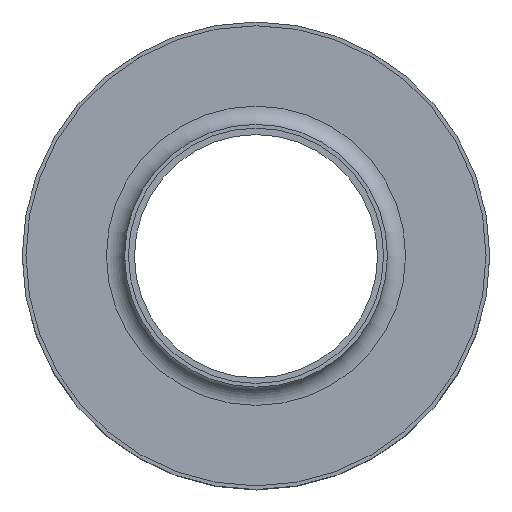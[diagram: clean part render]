
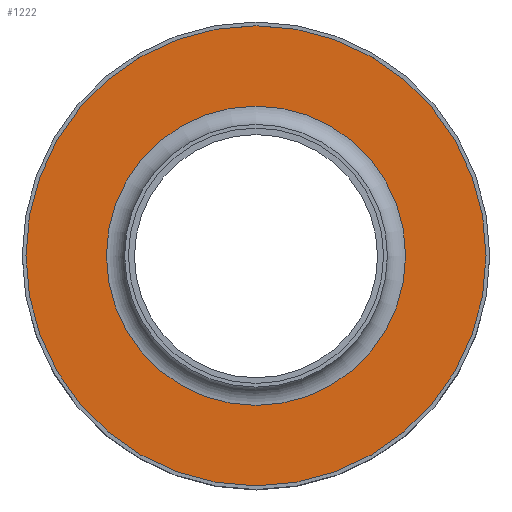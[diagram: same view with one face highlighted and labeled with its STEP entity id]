
A CAD part, top view. The second image highlights one B-rep face of the part: STEP entity #1222.
In plain terms, the highlighted planar face has unit normal (0, 0, 1).
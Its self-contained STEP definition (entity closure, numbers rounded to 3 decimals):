
#19=FACE_BOUND('',#197,.T.);
#74=PLANE('',#1366);
#132=FACE_OUTER_BOUND('',#196,.T.);
#196=EDGE_LOOP('',(#1011));
#197=EDGE_LOOP('',(#1012,#1013));
#484=CIRCLE('',#1348,123.);
#496=CIRCLE('',#1364,80.);
#497=CIRCLE('',#1365,80.);
#603=VERTEX_POINT('',#2043);
#613=VERTEX_POINT('',#2069);
#614=VERTEX_POINT('',#2071);
#768=EDGE_CURVE('',#603,#603,#484,.T.);
#781=EDGE_CURVE('',#614,#613,#496,.T.);
#782=EDGE_CURVE('',#613,#614,#497,.T.);
#1011=ORIENTED_EDGE('',*,*,#768,.T.);
#1012=ORIENTED_EDGE('',*,*,#781,.T.);
#1013=ORIENTED_EDGE('',*,*,#782,.T.);
#1222=ADVANCED_FACE('',(#132,#19),#74,.T.);
#1348=AXIS2_PLACEMENT_3D('',#2044,#1676,#1677);
#1364=AXIS2_PLACEMENT_3D('',#2072,#1709,#1710);
#1365=AXIS2_PLACEMENT_3D('',#2073,#1711,#1712);
#1366=AXIS2_PLACEMENT_3D('',#2074,#1713,#1714);
#1676=DIRECTION('center_axis',(0.,0.,1.));
#1677=DIRECTION('ref_axis',(-1.,0.,0.));
#1709=DIRECTION('center_axis',(0.,0.,-1.));
#1710=DIRECTION('ref_axis',(1.,0.,0.));
#1711=DIRECTION('center_axis',(0.,0.,-1.));
#1712=DIRECTION('ref_axis',(1.,0.,0.));
#1713=DIRECTION('center_axis',(0.,0.,1.));
#1714=DIRECTION('ref_axis',(1.,0.,0.));
#2043=CARTESIAN_POINT('',(123.,0.,124.));
#2044=CARTESIAN_POINT('Origin',(0.,0.,124.));
#2069=CARTESIAN_POINT('',(80.,0.,124.));
#2071=CARTESIAN_POINT('',(0.,80.,124.));
#2072=CARTESIAN_POINT('Origin',(0.,0.,124.));
#2073=CARTESIAN_POINT('Origin',(0.,0.,124.));
#2074=CARTESIAN_POINT('Origin',(0.,125.,124.));
